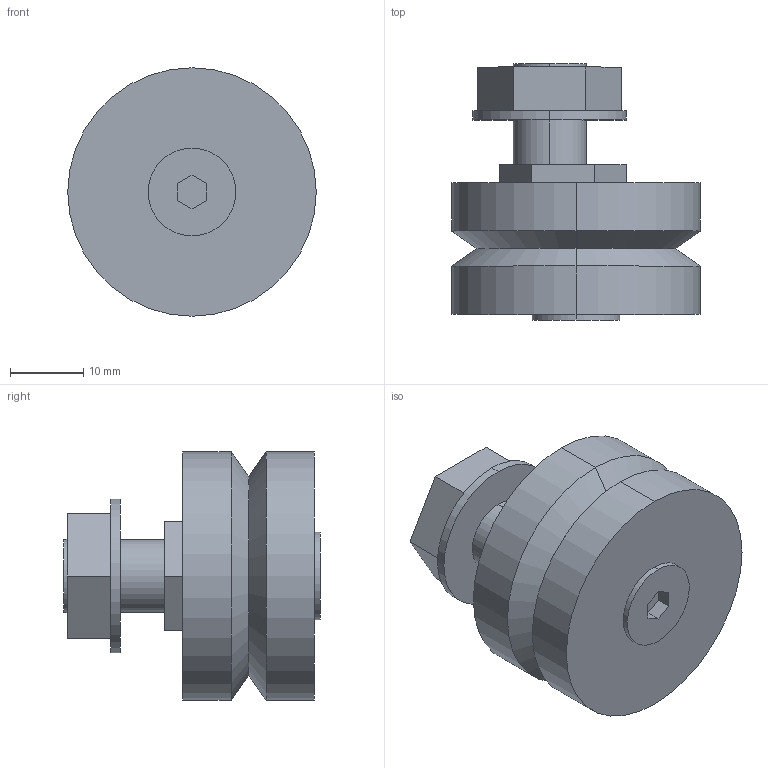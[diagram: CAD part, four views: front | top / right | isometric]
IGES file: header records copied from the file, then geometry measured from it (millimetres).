
Start section: 3D InterOp IGES (Version 21 0 1), Spatial Corp. Copyright (c) 1999-2007.
Global section: file name: RSJ34DENS.igs; native system: Spatial Corp.; preprocessor: 3D InterOp GENERIC/IGES 3.0; author: Noname; organization: Noname; date: 20220627.162818; units: millimetre
Bounding box: 34 x 35.1 x 34 mm (x, y, z)
Surface area: 5436.6 mm2 (no closed solid volume)
Topology: 0 solids, 0 shells, 50 faces, 228 edges, 228 vertices
Faces by surface type: extrusion 34, revolution 16
